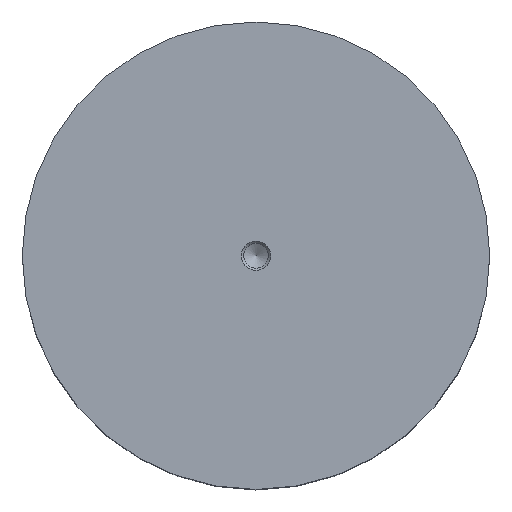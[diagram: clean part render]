
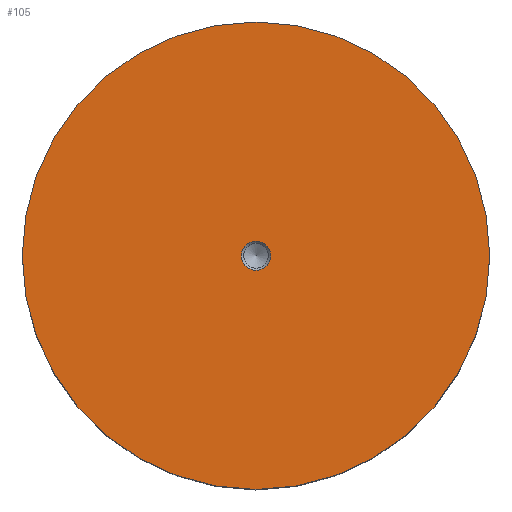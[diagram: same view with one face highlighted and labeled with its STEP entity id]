
A CAD part, top view. The second image highlights one B-rep face of the part: STEP entity #105.
In plain terms, the highlighted planar face has unit normal (0, 0, 1).
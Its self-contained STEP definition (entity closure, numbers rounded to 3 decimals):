
#105=ADVANCED_FACE('',(#116,#117),#114,.T.);
#114=PLANE('',#195);
#116=FACE_BOUND('',#134,.T.);
#117=FACE_BOUND('',#135,.T.);
#134=EDGE_LOOP('',(#150));
#135=EDGE_LOOP('',(#151));
#150=ORIENTED_EDGE('',*,*,#176,.F.);
#151=ORIENTED_EDGE('',*,*,#177,.F.);
#166=VERTEX_POINT('',#248);
#167=VERTEX_POINT('',#250);
#176=EDGE_CURVE('',#166,#166,#184,.T.);
#177=EDGE_CURVE('',#167,#167,#185,.T.);
#184=CIRCLE('',#193,5.);
#185=CIRCLE('',#194,80.);
#193=AXIS2_PLACEMENT_3D('',#247,#212,#213);
#194=AXIS2_PLACEMENT_3D('',#249,#214,#215);
#195=AXIS2_PLACEMENT_3D('',#251,#216,#217);
#212=DIRECTION('',(0.,0.,1.));
#213=DIRECTION('',(1.,0.,0.));
#214=DIRECTION('',(0.,0.,-1.));
#215=DIRECTION('',(1.,0.,0.));
#216=DIRECTION('',(0.,0.,1.));
#217=DIRECTION('',(1.,0.,0.));
#247=CARTESIAN_POINT('',(0.,0.,100.));
#248=CARTESIAN_POINT('',(5.,0.,100.));
#249=CARTESIAN_POINT('',(0.,0.,100.));
#250=CARTESIAN_POINT('',(80.,0.,100.));
#251=CARTESIAN_POINT('',(0.,0.,100.));
